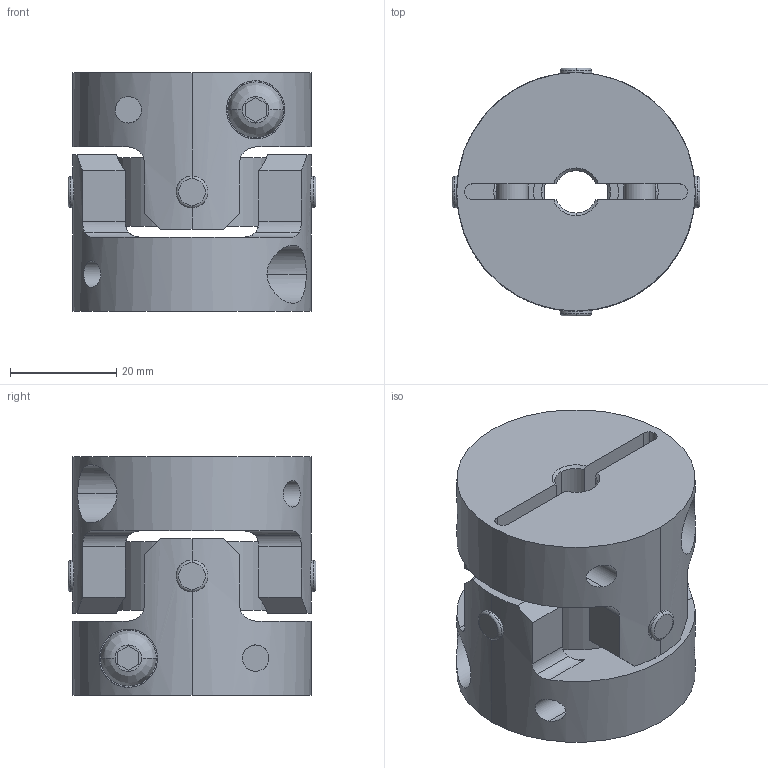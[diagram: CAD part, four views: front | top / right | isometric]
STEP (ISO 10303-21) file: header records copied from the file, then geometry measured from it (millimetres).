
FILE_DESCRIPTION((''),'2;1');
FILE_NAME('UA-45C-8×12.stp','2013-05-22T10:13:38',(''),(''),'AutoCAD STEP 2000i','AutoCAD 2000i',', , ');
FILE_SCHEMA(('CONFIG_CONTROL_DESIGN'));
Length unit declared in the file: millimetre
Products named in the file (6): UA-45C-8×8; 忣兜1; UA-4502-D08-1; BTN-M6; UA-4502-D08; UA45-SEN
Assembly tree (6 placements, depth 3):
  UA-45C-8×8
    忣兜1
    UA-4502-D08-1
      BTN-M6
    UA-4502-D08
      BTN-M6
    UA45-SEN
Bounding box: 46.73 x 46.73 x 45 mm (x, y, z)
Volume: 50984.2 mm3; surface area: 20313.8 mm2
Topology: 1 solids, 1 shells, 206 faces, 554 edges, 364 vertices
Faces by surface type: cylinder 96, plane 78, cone 16, bspline 8, torus 8
Entity records: 8523 total; most frequent: CARTESIAN_POINT 3207, ORIENTED_EDGE 1108, DIRECTION 1064, EDGE_CURVE 554, AXIS2_PLACEMENT_3D 409, VERTEX_POINT 364, VECTOR 246, LINE 246
